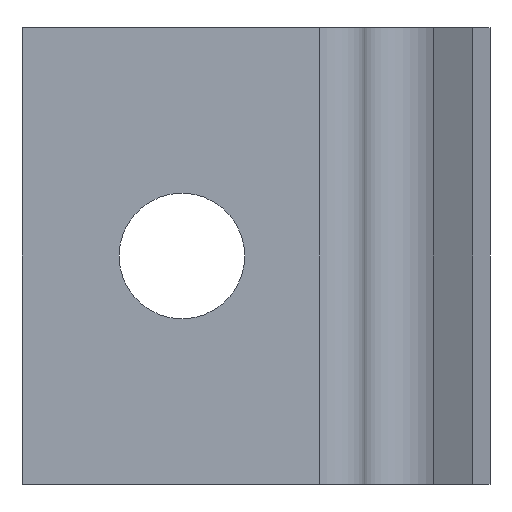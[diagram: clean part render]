
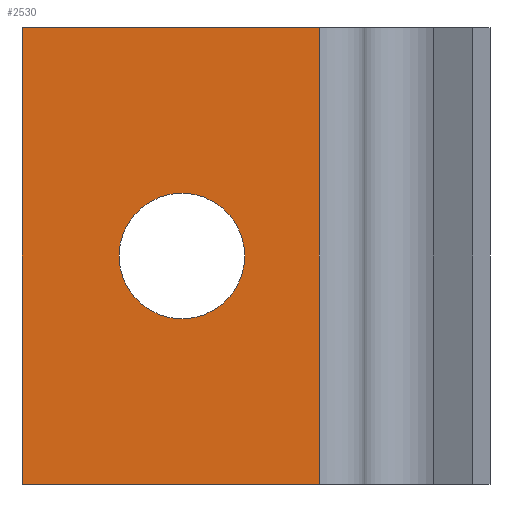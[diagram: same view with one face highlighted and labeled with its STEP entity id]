
A CAD part, front view. The second image highlights one B-rep face of the part: STEP entity #2530.
In plain terms, the highlighted planar face has unit normal (0, -1, 0).
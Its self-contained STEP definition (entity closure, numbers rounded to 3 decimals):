
#100=CARTESIAN_POINT('',(0.,0.,0.));
#110=VERTEX_POINT('',#100);
#960=CARTESIAN_POINT('',(26.,0.,0.));
#970=VERTEX_POINT('',#960);
#1000=CARTESIAN_POINT('',(30.,0.,0.));
#1010=DIRECTION('',(-1.,0.,0.));
#1020=VECTOR('',#1010,1.);
#1030=LINE('',#1000,#1020);
#1040=EDGE_CURVE('',#970,#110,#1030,.T.);
#1140=CARTESIAN_POINT('',(30.,0.,-40.));
#1150=DIRECTION('',(-1.,0.,0.));
#1160=VECTOR('',#1150,1.);
#1170=LINE('',#1140,#1160);
#1180=CARTESIAN_POINT('',(26.,0.,-40.));
#1190=VERTEX_POINT('',#1180);
#1200=CARTESIAN_POINT('',(0.,0.,-40.));
#1210=VERTEX_POINT('',#1200);
#1220=EDGE_CURVE('',#1190,#1210,#1170,.T.);
#2170=CARTESIAN_POINT('',(30.,0.,0.));
#2180=DIRECTION('',(0.,1.,-0.));
#2190=DIRECTION('',(1.,0.,0.));
#2200=AXIS2_PLACEMENT_3D('',#2170,#2180,#2190);
#2210=PLANE('',#2200);
#2220=ORIENTED_EDGE('',*,*,#1220,.F.);
#2230=CARTESIAN_POINT('',(0.,0.,0.));
#2240=DIRECTION('',(-0.,-0.,-1.));
#2250=VECTOR('',#2240,1.);
#2260=LINE('',#2230,#2250);
#2270=EDGE_CURVE('',#110,#1210,#2260,.T.);
#2280=ORIENTED_EDGE('',*,*,#2270,.T.);
#2290=ORIENTED_EDGE('',*,*,#1040,.T.);
#2300=CARTESIAN_POINT('',(26.,0.,0.));
#2310=DIRECTION('',(-0.,-0.,-1.));
#2320=VECTOR('',#2310,1.);
#2330=LINE('',#2300,#2320);
#2340=EDGE_CURVE('',#970,#1190,#2330,.T.);
#2350=ORIENTED_EDGE('',*,*,#2340,.F.);
#2360=EDGE_LOOP('',(#2350,#2290,#2280,#2220));
#2370=FACE_OUTER_BOUND('',#2360,.T.);
#2380=CARTESIAN_POINT('',(14.,0.,-20.));
#2390=DIRECTION('',(0.,1.,0.));
#2400=DIRECTION('',(1.,0.,0.));
#2410=AXIS2_PLACEMENT_3D('',#2380,#2390,#2400);
#2420=CIRCLE('',#2410,5.5);
#2430=CARTESIAN_POINT('',(19.5,0.,-20.));
#2440=VERTEX_POINT('',#2430);
#2450=CARTESIAN_POINT('',(8.5,0.,-20.));
#2460=VERTEX_POINT('',#2450);
#2470=EDGE_CURVE('',#2440,#2460,#2420,.T.);
#2480=ORIENTED_EDGE('',*,*,#2470,.T.);
#2490=EDGE_CURVE('',#2460,#2440,#2420,.T.);
#2500=ORIENTED_EDGE('',*,*,#2490,.T.);
#2510=EDGE_LOOP('',(#2500,#2480));
#2520=FACE_BOUND('',#2510,.T.);
#2530=ADVANCED_FACE('',(#2370,#2520),#2210,.F.);
